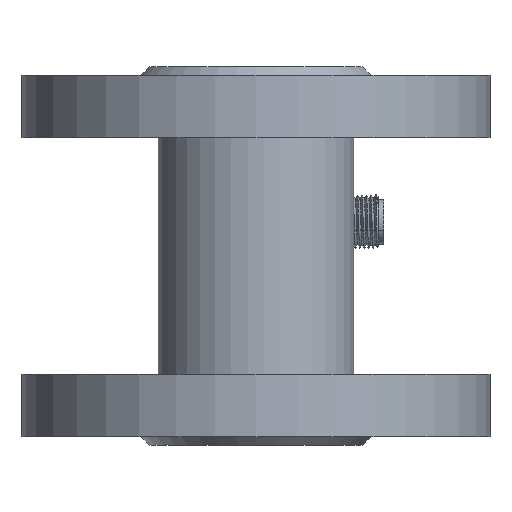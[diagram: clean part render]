
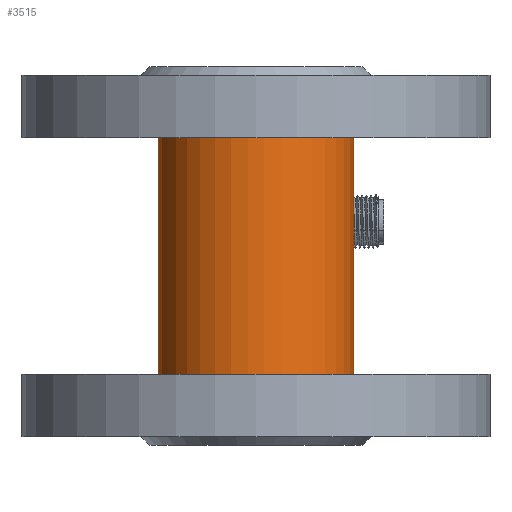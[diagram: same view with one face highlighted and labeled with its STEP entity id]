
A CAD part, front view. The second image highlights one B-rep face of the part: STEP entity #3515.
In plain terms, the highlighted cylindrical face has radius 22 mm (diameter 44 mm), a partial arc.
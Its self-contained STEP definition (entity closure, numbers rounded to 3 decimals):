
#2436=CYLINDRICAL_SURFACE('',#15188,22.);
#2799=CIRCLE('',#15186,22.);
#2800=CIRCLE('',#15187,22.);
#3515=ADVANCED_FACE('',(#4425),#2436,.T.);
#4425=FACE_OUTER_BOUND('',#5245,.T.);
#5245=EDGE_LOOP('',(#9422,#9423,#9424,#9425,#9426,#9427,#9428,#9429,#9430,
#9431,#9432,#9433,#9434,#9435));
#5957=B_SPLINE_CURVE_WITH_KNOTS('',3,(#31566,#31567,#31568,#31569,#31570,
#31571),.UNSPECIFIED.,.F.,.F.,(4,2,4),(0.,0.5,1.),.UNSPECIFIED.);
#5958=B_SPLINE_CURVE_WITH_KNOTS('',3,(#31579,#31580,#31581,#31582),
 .UNSPECIFIED.,.F.,.F.,(4,4),(0.,1.),.UNSPECIFIED.);
#5959=B_SPLINE_CURVE_WITH_KNOTS('',3,(#31584,#31585,#31586,#31587),
 .UNSPECIFIED.,.F.,.F.,(4,4),(0.,1.),.UNSPECIFIED.);
#5960=B_SPLINE_CURVE_WITH_KNOTS('',3,(#31589,#31590,#31591,#31592),
 .UNSPECIFIED.,.F.,.F.,(4,4),(0.,1.),.UNSPECIFIED.);
#5961=B_SPLINE_CURVE_WITH_KNOTS('',3,(#31594,#31595,#31596,#31597),
 .UNSPECIFIED.,.F.,.F.,(4,4),(0.,1.),.UNSPECIFIED.);
#5962=B_SPLINE_CURVE_WITH_KNOTS('',3,(#31599,#31600,#31601,#31602),
 .UNSPECIFIED.,.F.,.F.,(4,4),(0.,1.),.UNSPECIFIED.);
#5963=B_SPLINE_CURVE_WITH_KNOTS('',3,(#31604,#31605,#31606,#31607),
 .UNSPECIFIED.,.F.,.F.,(4,4),(0.,1.),.UNSPECIFIED.);
#5964=B_SPLINE_CURVE_WITH_KNOTS('',3,(#31609,#31610,#31611,#31612),
 .UNSPECIFIED.,.F.,.F.,(4,4),(0.,1.),.UNSPECIFIED.);
#9422=ORIENTED_EDGE('',*,*,#12470,.T.);
#9423=ORIENTED_EDGE('',*,*,#12471,.T.);
#9424=ORIENTED_EDGE('',*,*,#12472,.T.);
#9425=ORIENTED_EDGE('',*,*,#12473,.F.);
#9426=ORIENTED_EDGE('',*,*,#12474,.T.);
#9427=ORIENTED_EDGE('',*,*,#12475,.T.);
#9428=ORIENTED_EDGE('',*,*,#12476,.T.);
#9429=ORIENTED_EDGE('',*,*,#12477,.F.);
#9430=ORIENTED_EDGE('',*,*,#12478,.F.);
#9431=ORIENTED_EDGE('',*,*,#12479,.F.);
#9432=ORIENTED_EDGE('',*,*,#12480,.F.);
#9433=ORIENTED_EDGE('',*,*,#12481,.F.);
#9434=ORIENTED_EDGE('',*,*,#12482,.F.);
#9435=ORIENTED_EDGE('',*,*,#12483,.F.);
#10700=VERTEX_POINT('',#31560);
#10701=VERTEX_POINT('',#31561);
#10702=VERTEX_POINT('',#31563);
#10703=VERTEX_POINT('',#31565);
#10704=VERTEX_POINT('',#31572);
#10705=VERTEX_POINT('',#31574);
#10706=VERTEX_POINT('',#31576);
#10707=VERTEX_POINT('',#31578);
#10708=VERTEX_POINT('',#31583);
#10709=VERTEX_POINT('',#31588);
#10710=VERTEX_POINT('',#31593);
#10711=VERTEX_POINT('',#31598);
#10712=VERTEX_POINT('',#31603);
#10713=VERTEX_POINT('',#31608);
#12470=EDGE_CURVE('',#10700,#10701,#13332,.T.);
#12471=EDGE_CURVE('',#10701,#10702,#2799,.T.);
#12472=EDGE_CURVE('',#10702,#10703,#13333,.T.);
#12473=EDGE_CURVE('',#10704,#10703,#5957,.T.);
#12474=EDGE_CURVE('',#10704,#10705,#13334,.T.);
#12475=EDGE_CURVE('',#10705,#10706,#2800,.T.);
#12476=EDGE_CURVE('',#10706,#10707,#13335,.T.);
#12477=EDGE_CURVE('',#10708,#10707,#5958,.T.);
#12478=EDGE_CURVE('',#10709,#10708,#5959,.T.);
#12479=EDGE_CURVE('',#10710,#10709,#5960,.T.);
#12480=EDGE_CURVE('',#10711,#10710,#5961,.T.);
#12481=EDGE_CURVE('',#10712,#10711,#5962,.T.);
#12482=EDGE_CURVE('',#10713,#10712,#5963,.T.);
#12483=EDGE_CURVE('',#10700,#10713,#5964,.T.);
#13332=LINE('',#31559,#14290);
#13333=LINE('',#31564,#14291);
#13334=LINE('',#31573,#14292);
#13335=LINE('',#31577,#14293);
#14290=VECTOR('',#17953,1.);
#14291=VECTOR('',#17956,1.);
#14292=VECTOR('',#17957,1.);
#14293=VECTOR('',#17960,1.);
#15186=AXIS2_PLACEMENT_3D('',#31562,#17954,#17955);
#15187=AXIS2_PLACEMENT_3D('',#31575,#17958,#17959);
#15188=AXIS2_PLACEMENT_3D('',#31613,#17961,#17962);
#17953=DIRECTION('',(0.,0.,-1.));
#17954=DIRECTION('',(0.,0.,1.));
#17955=DIRECTION('',(-1.,0.,0.));
#17956=DIRECTION('',(0.,0.,1.));
#17957=DIRECTION('',(0.,0.,1.));
#17958=DIRECTION('',(0.,0.,-1.));
#17959=DIRECTION('',(1.,0.,0.));
#17960=DIRECTION('',(0.,0.,-1.));
#17961=DIRECTION('',(0.,0.,-1.));
#17962=DIRECTION('',(1.,0.,0.));
#31559=CARTESIAN_POINT('',(-6.557,16.5,134.8));
#31560=CARTESIAN_POINT('',(-6.557,16.5,-6.605));
#31561=CARTESIAN_POINT('',(-6.557,16.5,-36.2));
#31562=CARTESIAN_POINT('',(0.,-4.5,-36.2));
#31563=CARTESIAN_POINT('',(6.557,16.5,-36.2));
#31564=CARTESIAN_POINT('',(6.557,16.5,134.8));
#31565=CARTESIAN_POINT('',(6.557,16.5,-6.56));
#31566=CARTESIAN_POINT('',(6.557,16.5,2.56));
#31567=CARTESIAN_POINT('',(7.267,16.278,1.149));
#31568=CARTESIAN_POINT('',(7.622,16.138,-0.425));
#31569=CARTESIAN_POINT('',(7.622,16.137,-3.571));
#31570=CARTESIAN_POINT('',(7.267,16.278,-5.149));
#31571=CARTESIAN_POINT('',(6.557,16.5,-6.56));
#31572=CARTESIAN_POINT('',(6.557,16.5,2.56));
#31573=CARTESIAN_POINT('',(6.557,16.5,134.8));
#31574=CARTESIAN_POINT('',(6.557,16.5,16.8));
#31575=CARTESIAN_POINT('',(0.,-4.5,16.8));
#31576=CARTESIAN_POINT('',(-6.557,16.5,16.8));
#31577=CARTESIAN_POINT('',(-6.557,16.5,134.8));
#31578=CARTESIAN_POINT('',(-6.557,16.5,2.605));
#31579=CARTESIAN_POINT('',(-6.589,16.49,2.542));
#31580=CARTESIAN_POINT('',(-6.579,16.493,2.563));
#31581=CARTESIAN_POINT('',(-6.568,16.497,2.584));
#31582=CARTESIAN_POINT('',(-6.557,16.5,2.605));
#31583=CARTESIAN_POINT('',(-6.589,16.49,2.542));
#31584=CARTESIAN_POINT('',(-6.609,16.484,2.531));
#31585=CARTESIAN_POINT('',(-6.602,16.486,2.535));
#31586=CARTESIAN_POINT('',(-6.596,16.488,2.538));
#31587=CARTESIAN_POINT('',(-6.589,16.49,2.542));
#31588=CARTESIAN_POINT('',(-6.609,16.484,2.531));
#31589=CARTESIAN_POINT('',(-7.542,16.167,0.712));
#31590=CARTESIAN_POINT('',(-7.308,16.252,1.362));
#31591=CARTESIAN_POINT('',(-6.996,16.362,1.967));
#31592=CARTESIAN_POINT('',(-6.609,16.484,2.531));
#31593=CARTESIAN_POINT('',(-7.542,16.167,0.712));
#31594=CARTESIAN_POINT('',(-7.791,16.074,-3.881));
#31595=CARTESIAN_POINT('',(-7.981,16.002,-2.345));
#31596=CARTESIAN_POINT('',(-7.899,16.037,-0.789));
#31597=CARTESIAN_POINT('',(-7.542,16.167,0.712));
#31598=CARTESIAN_POINT('',(-7.791,16.074,-3.881));
#31599=CARTESIAN_POINT('',(-7.13,16.313,-5.658));
#31600=CARTESIAN_POINT('',(-7.418,16.214,-5.099));
#31601=CARTESIAN_POINT('',(-7.642,16.131,-4.498));
#31602=CARTESIAN_POINT('',(-7.791,16.074,-3.881));
#31603=CARTESIAN_POINT('',(-7.13,16.313,-5.658));
#31604=CARTESIAN_POINT('',(-6.934,16.379,-5.77));
#31605=CARTESIAN_POINT('',(-7.,16.357,-5.733));
#31606=CARTESIAN_POINT('',(-7.065,16.335,-5.696));
#31607=CARTESIAN_POINT('',(-7.13,16.313,-5.658));
#31608=CARTESIAN_POINT('',(-6.934,16.379,-5.77));
#31609=CARTESIAN_POINT('',(-6.557,16.5,-6.605));
#31610=CARTESIAN_POINT('',(-6.697,16.456,-6.331));
#31611=CARTESIAN_POINT('',(-6.822,16.416,-6.053));
#31612=CARTESIAN_POINT('',(-6.934,16.379,-5.77));
#31613=CARTESIAN_POINT('',(0.,-4.5,134.8));
